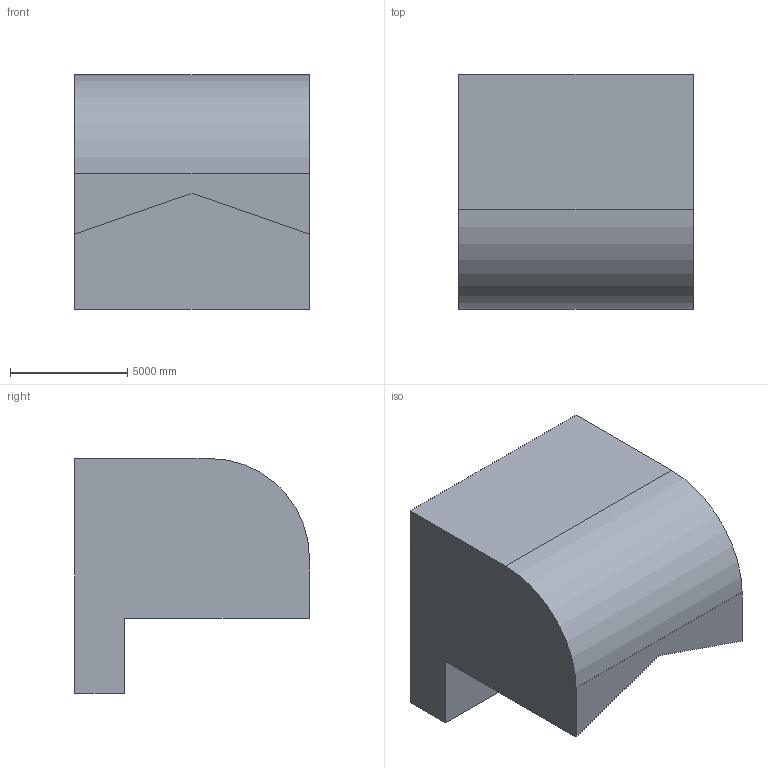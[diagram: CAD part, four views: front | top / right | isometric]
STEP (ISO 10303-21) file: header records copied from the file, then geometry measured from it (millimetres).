
FILE_DESCRIPTION (( 'STEP AP203' ), '1' );
FILE_NAME ('44.STEP', '2022-08-31T11:16:10', ( 'user' ), ( '' ), 'SwSTEP 2.0', 'SolidWorks 2021', '' );
FILE_SCHEMA (( 'CONFIG_CONTROL_DESIGN' ));
Length unit declared in the file: centimetre
Products named in the file (1): 44
Bounding box: 10000 x 10000 x 10000 mm (x, y, z)
Volume: 601905216965.6 mm3; surface area: 578412564.9 mm2
Topology: 1 solids, 1 shells, 13 faces, 30 edges, 20 vertices
Faces by surface type: plane 10, cylinder 3
Entity records: 447 total; most frequent: DIRECTION 64, CARTESIAN_POINT 64, ORIENTED_EDGE 60, EDGE_CURVE 30, LINE 24, VECTOR 24, AXIS2_PLACEMENT_3D 20, VERTEX_POINT 20
